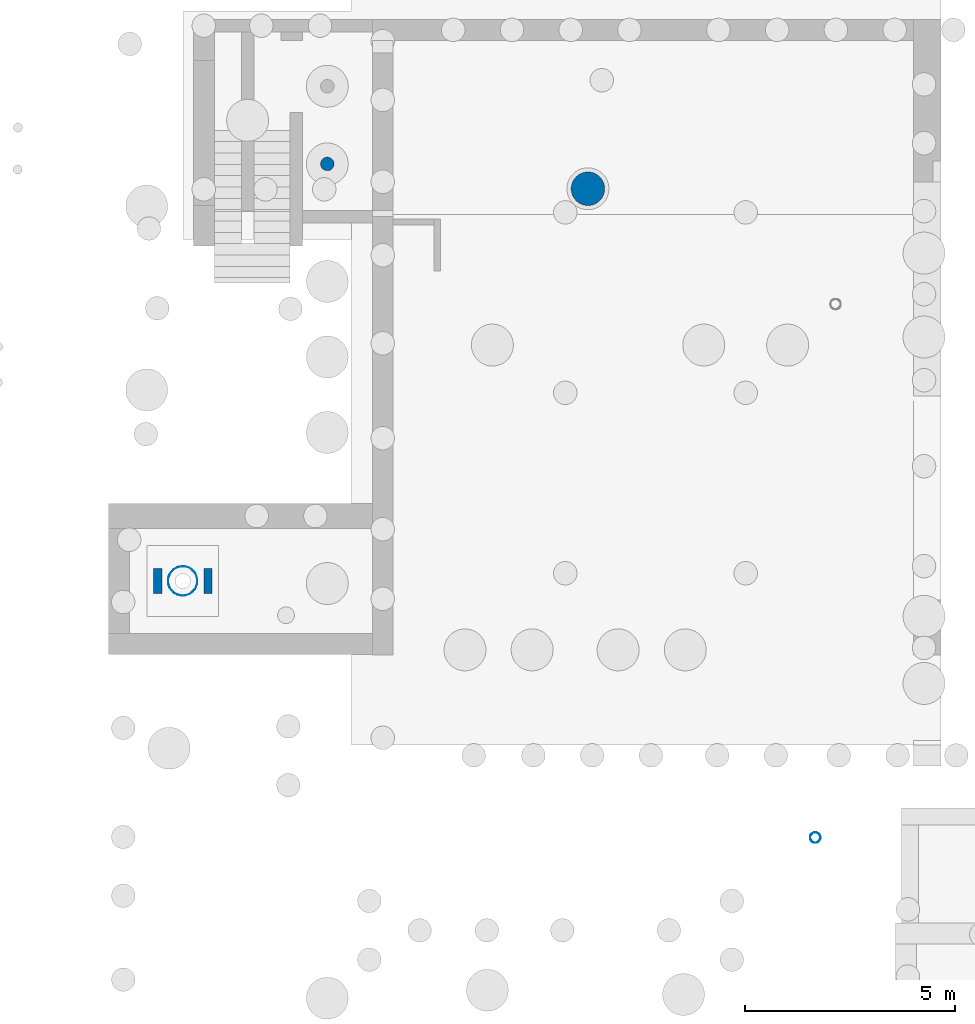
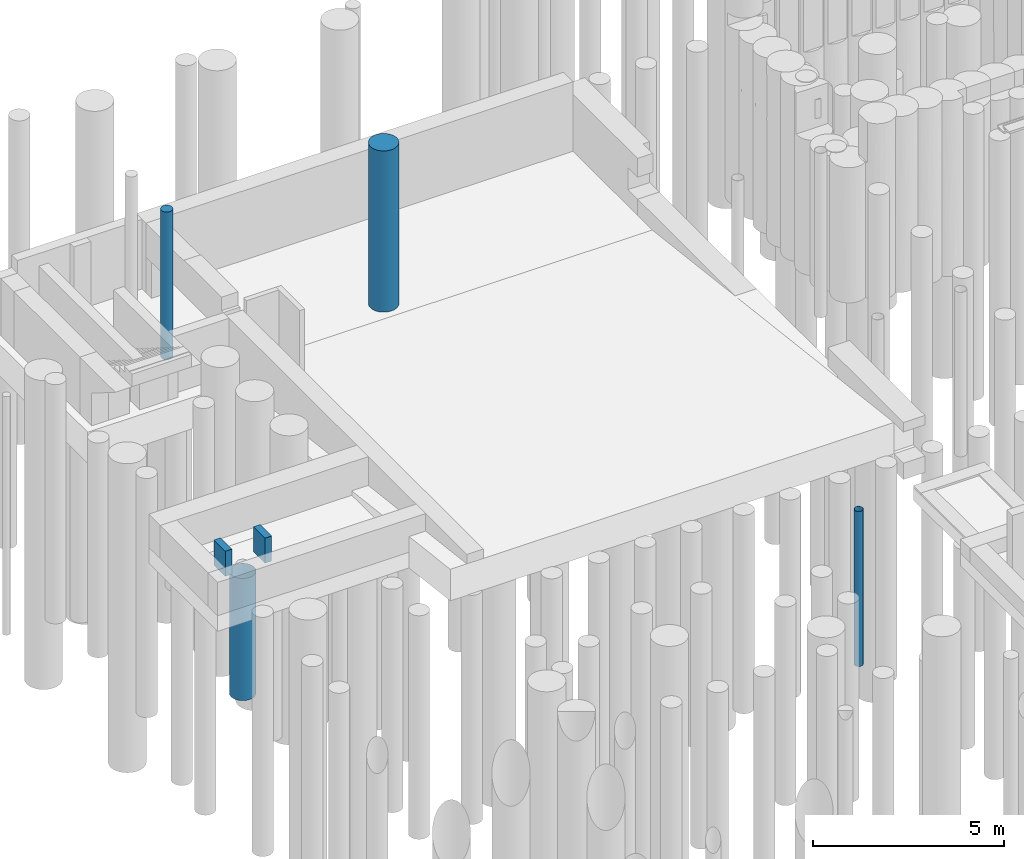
# One storey, part 7 of 104: 6 columns.
"""IFC2X3 building model written with IfcOpenShell, lengths in millimetres."""

import ifcopenshell
import ifcopenshell.guid

model = None  # the IFC model being written
_history = None  # IfcOwnerHistory: only IFC2X3 demands one
_inside = {}  # id of a spatial element -> (the spatial element, [elements in it])
_under = {}  # id of a project, library or spatial element -> (it, [spatial elements below it])
_declared = {}  # id of a project -> (the project, [libraries it declares])
_typed = {}  # id of a type object -> (the type object, [elements of that type])
_made_of = {}  # id of a material, layer set ... -> (it, [elements and type objects made of it])


def new_model(schema):
    """Start an empty IFC model of exactly this schema.

    Asked for "IFC4X3", IfcOpenShell would pick the latest addendum, in which some entities
    have other attributes; the version numbers below select the first issue.
    IFC2X3 requires an IfcOwnerHistory on every rooted entity: one is made here for all.
    """
    global model, _history
    if schema == "IFC4X3":
        model = ifcopenshell.file(schema_version=(4, 3, 0, 0))
    else:
        model = ifcopenshell.file(schema=schema)
    _inside.clear()
    _under.clear()
    _declared.clear()
    _typed.clear()
    _made_of.clear()
    _history = None
    if model.schema == "IFC2X3":
        org = make("IfcOrganization", Name="unknown")
        user = make(
            "IfcPersonAndOrganization",
            ThePerson=make("IfcPerson", FamilyName="unknown"),
            TheOrganization=org,
        )
        app = make(
            "IfcApplication",
            ApplicationDeveloper=org,
            Version="unknown",
            ApplicationFullName="unknown",
            ApplicationIdentifier="unknown",
        )
        _history = make(
            "IfcOwnerHistory",
            OwningUser=user,
            OwningApplication=app,
            ChangeAction="ADDED",
            CreationDate=0,
        )
    return model


def make(cls, **values):
    """One entity of the class cls with the attributes given. An attribute that is None is left unset."""
    return model.create_entity(
        cls, **{name: value for name, value in values.items() if value is not None}
    )


def entity(cls, *values):
    """Any entity or typed value of the class cls, its attributes in the order of the schema. None: left unset."""
    e = model.create_entity(cls)
    for i, value in enumerate(values):
        if value is not None:
            e[i] = value
    return e


def rooted(cls, **values):
    """An entity with a GlobalId (a new one), such as an element, a storey or a relation."""
    return make(cls, GlobalId=ifcopenshell.guid.new(), OwnerHistory=_history, **values)


def si_unit(unit_type, name, prefix=None):
    """IfcSIUnit, for example si_unit("LENGTHUNIT", "METRE", prefix="MILLI")."""
    return make("IfcSIUnit", UnitType=unit_type, Prefix=prefix, Name=name)


def converted_unit(unit_type, name, factor, base, dimensions=None, offset=None):
    """IfcConversionBasedUnit, such as the inch: factor (a typed value) times the base unit."""
    return make(
        "IfcConversionBasedUnit"
        if offset is None
        else "IfcConversionBasedUnitWithOffset",
        ConversionOffset=offset,
        Dimensions=None
        if dimensions is None
        else entity("IfcDimensionalExponents", *dimensions),
        UnitType=unit_type,
        Name=name,
        ConversionFactor=make(
            "IfcMeasureWithUnit", ValueComponent=factor, UnitComponent=base
        ),
    )


def derived_unit(unit_type, elements):
    """IfcDerivedUnit: a product of units, each with its exponent."""
    return make(
        "IfcDerivedUnit",
        Elements=[
            make("IfcDerivedUnitElement", Unit=unit, Exponent=power)
            for unit, power in elements
        ],
        UnitType=unit_type,
    )


def assignment(units):
    """IfcUnitAssignment: the units of a project."""
    return None if units is None else make("IfcUnitAssignment", Units=units)


def point(xyz):
    """IfcCartesianPoint."""
    return None if xyz is None else make("IfcCartesianPoint", Coordinates=xyz)


def direction(xyz):
    """IfcDirection."""
    return None if xyz is None else make("IfcDirection", DirectionRatios=xyz)


def frame(location, z_axis=None, x_axis=None):
    """IfcAxis2Placement3D, a coordinate frame: its origin and axes. An axis left out is left unset."""
    return make(
        "IfcAxis2Placement3D",
        Location=point(location),
        Axis=direction(z_axis),
        RefDirection=direction(x_axis),
    )


def frame_2d(location, x_axis=None):
    """IfcAxis2Placement2D, a coordinate frame in the plane: its origin and x axis."""
    return make(
        "IfcAxis2Placement2D", Location=point(location), RefDirection=direction(x_axis)
    )


def origin():
    """The frame at (0, 0, 0) with its axes left unset."""
    return frame((0.0, 0.0, 0.0))


def origin_2d_with_axis():
    """The frame at (0, 0) in the plane with the x axis (1, 0) written out."""
    return frame_2d((0.0, 0.0), x_axis=(1.0, 0.0))


def place(relative_to, where):
    """IfcLocalPlacement: puts the frame where relative to a parent placement (None: the world)."""
    return make(
        "IfcLocalPlacement", PlacementRelTo=relative_to, RelativePlacement=where
    )


def context(
    kind, dimensions, precision=None, world=None, true_north=None, identifier=None
):
    """IfcGeometricRepresentationContext, for example the 3D "Model" context."""
    return make(
        "IfcGeometricRepresentationContext",
        ContextIdentifier=identifier,
        ContextType=kind,
        CoordinateSpaceDimension=dimensions,
        Precision=precision,
        WorldCoordinateSystem=world,
        TrueNorth=true_north,
    )


def subcontext(parent, identifier, kind, view, scale=None):
    """IfcGeometricRepresentationSubContext, for example "Body" below "Model"."""
    return make(
        "IfcGeometricRepresentationSubContext",
        ContextIdentifier=identifier,
        ContextType=kind,
        ParentContext=parent,
        TargetScale=scale,
        TargetView=view,
    )


def project(units=None, contexts=None):
    """IfcProject with its units and contexts."""
    return rooted(
        "IfcProject",
        Name="project",
        RepresentationContexts=contexts,
        UnitsInContext=assignment(units),
    )


def spatial(cls, under=None, at=None, **own):
    """A site, building, storey or space (cls), placed at a placement, below another one or the project."""
    s = rooted(cls, ObjectPlacement=at, **own)
    if under is not None:
        _under.setdefault(under.id(), (under, []))[1].append(s)
    return s


def profile(cls, at=None, kind="AREA", **sizes):
    """A parametric profile (cls). Its sizes go by their IFC names, for example OverallWidth=200.0."""
    return make(cls, ProfileType=kind, Position=at, **sizes)


def rectangle(**sizes):
    """IfcRectangleProfileDef."""
    return profile("IfcRectangleProfileDef", **sizes)


def circle(**sizes):
    """IfcCircleProfileDef."""
    return profile("IfcCircleProfileDef", **sizes)


def hollow_circle(**sizes):
    """IfcCircleHollowProfileDef."""
    return profile("IfcCircleHollowProfileDef", **sizes)


def extrude(swept, where, along, depth):
    """IfcExtrudedAreaSolid: the profile swept, set in the frame where, extruded along a direction by depth."""
    return make(
        "IfcExtrudedAreaSolid",
        SweptArea=swept,
        Position=where,
        ExtrudedDirection=direction(along),
        Depth=depth,
    )


def shape(context_of_items, identifier, shape_type, items):
    """IfcShapeRepresentation: the items that make up one representation, for example the "Body"."""
    return make(
        "IfcShapeRepresentation",
        ContextOfItems=context_of_items,
        RepresentationIdentifier=identifier,
        RepresentationType=shape_type,
        Items=items,
    )


def source(mapping_origin, context_of_items, identifier, shape_type, items):
    """IfcRepresentationMap: a shape defined once, which mapped items show again and again."""
    return make(
        "IfcRepresentationMap",
        MappingOrigin=mapping_origin,
        MappedRepresentation=shape(context_of_items, identifier, shape_type, items),
    )


def transform(
    local_origin,
    x_axis=None,
    y_axis=None,
    z_axis=None,
    scale=None,
    scale2=None,
    scale3=None,
    uniform=True,
):
    """IfcCartesianTransformationOperator3D, or its non-uniform kind. x_axis, y_axis, z_axis: its Axis1, 2, 3."""
    if uniform:
        return make(
            "IfcCartesianTransformationOperator3D",
            Axis1=direction(x_axis),
            Axis2=direction(y_axis),
            LocalOrigin=point(local_origin),
            Scale=scale,
            Axis3=direction(z_axis),
        )
    return make(
        "IfcCartesianTransformationOperator3DnonUniform",
        Axis1=direction(x_axis),
        Axis2=direction(y_axis),
        LocalOrigin=point(local_origin),
        Scale=scale,
        Axis3=direction(z_axis),
        Scale2=scale2,
        Scale3=scale3,
    )


def mapped(mapping_source, mapping_target):
    """IfcMappedItem: shows the shape of a source again, moved by a transform."""
    return make(
        "IfcMappedItem", MappingSource=mapping_source, MappingTarget=mapping_target
    )


def material(Name=None, Category=None):
    """IfcMaterial."""
    return make("IfcMaterial", Name=Name, Category=Category)


def material_list(materials):
    """IfcMaterialList."""
    return make("IfcMaterialList", Materials=materials)


def made_of(thing, what):
    """Note that an element or type object is made of a material, layer set ...; save() writes the relation."""
    if what is not None:
        _made_of.setdefault(what.id(), (what, []))[1].append(thing)
    return thing


def type_object(cls, material=None, **own):
    """A type object (cls), such as IfcWallType, which elements share."""
    return made_of(rooted(cls, **own), material)


def type_shapes(of_type, sources):
    """Give a type object the sources (RepresentationMaps) that its elements show as mapped items."""
    of_type.RepresentationMaps = sources


def element(
    cls,
    number,
    at=None,
    inside=None,
    cuts=None,
    type_object=None,
    material=None,
    context=None,
    identifier="Body",
    shape_type=None,
    held_by="IfcProductDefinitionShape",
    body=None,
    shapes=None,
    **own,
):
    """One element of the class cls, such as IfcWall. Its Tag is "e" and its number.

    at: its placement. inside: the storey or other place that contains it. cuts: it is an
    opening in that element (IfcRelVoidsElement). A single representation is given by context,
    identifier, shape_type and body (its items); several are given by shapes. held_by: the class
    of the entity that holds the representations. save() writes the other relations.
    """
    e = rooted(cls, Tag="e%d" % number, ObjectPlacement=at, **own)
    if body is not None:
        shapes = [shape(context, identifier, shape_type, body)]
    if shapes is not None:
        e.Representation = make(held_by, Representations=shapes)
    if inside is not None:
        _inside.setdefault(inside.id(), (inside, []))[1].append(e)
    if cuts is not None:
        rooted(
            "IfcRelVoidsElement", RelatingBuildingElement=cuts, RelatedOpeningElement=e
        )
    if type_object is not None:
        _typed.setdefault(type_object.id(), (type_object, []))[1].append(e)
    return made_of(e, material)


def aggregate(whole, parts):
    """IfcRelAggregates: a whole, such as a stair, and the parts it consists of."""
    return rooted("IfcRelAggregates", RelatingObject=whole, RelatedObjects=parts)


def save(model, path):
    """Write the relations noted so far, then the file.

    IfcRelAggregates (storeys below a building ...), IfcRelContainedInSpatialStructure (elements
    in a storey), IfcRelDefinesByType, IfcRelAssociatesMaterial and IfcRelDeclares: one each for
    every whole, place, type object, material and project.
    """
    for whole, parts in _under.values():
        aggregate(whole, parts)
    for where, things in _inside.values():
        rooted(
            "IfcRelContainedInSpatialStructure",
            RelatedElements=things,
            RelatingStructure=where,
        )
    for kind, things in _typed.values():
        rooted("IfcRelDefinesByType", RelatedObjects=things, RelatingType=kind)
    for what, things in _made_of.values():
        rooted("IfcRelAssociatesMaterial", RelatedObjects=things, RelatingMaterial=what)
    for by, libraries in _declared.values():
        rooted("IfcRelDeclares", RelatingContext=by, RelatedDefinitions=libraries)
    model.write(path)


model = new_model("IFC2X3")

# Units and contexts
model_context = context("Model", 3, precision=0.01, world=origin(), true_north=direction((6.12303176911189e-17, 1.0)))
body_context = subcontext(model_context, "Body", "Model", "MODEL_VIEW")
ifc_project = project(units=[si_unit("LENGTHUNIT", "METRE", prefix="MILLI"), si_unit("AREAUNIT", "SQUARE_METRE", prefix="MILLI"), si_unit("VOLUMEUNIT", "CUBIC_METRE"), converted_unit("PLANEANGLEUNIT", "DEGREE", entity("IfcRatioMeasure", 0.0174532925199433), si_unit("PLANEANGLEUNIT", "RADIAN"), dimensions=[0, 0, 0, 0, 0, 0, 0]), si_unit("MASSUNIT", "GRAM", prefix="KILO"), derived_unit("MASSDENSITYUNIT", [(si_unit("MASSUNIT", "GRAM", prefix="KILO"), 1), (si_unit("LENGTHUNIT", "METRE"), -3)]), derived_unit("MOMENTOFINERTIAUNIT", [(si_unit("LENGTHUNIT", "METRE"), 4)]), si_unit("TIMEUNIT", "SECOND"), si_unit("FREQUENCYUNIT", "HERTZ"), si_unit("THERMODYNAMICTEMPERATUREUNIT", "DEGREE_CELSIUS"), derived_unit("THERMALTRANSMITTANCEUNIT", [(si_unit("MASSUNIT", "GRAM", prefix="KILO"), 1), (si_unit("THERMODYNAMICTEMPERATUREUNIT", "KELVIN"), -1), (si_unit("TIMEUNIT", "SECOND"), -3)]), derived_unit("VOLUMETRICFLOWRATEUNIT", [(si_unit("LENGTHUNIT", "METRE"), 3), (si_unit("TIMEUNIT", "SECOND"), -1)]), si_unit("ELECTRICCURRENTUNIT", "AMPERE"), si_unit("ELECTRICVOLTAGEUNIT", "VOLT"), si_unit("POWERUNIT", "WATT"), si_unit("FORCEUNIT", "NEWTON", prefix="KILO"), si_unit("ILLUMINANCEUNIT", "LUX"), si_unit("LUMINOUSFLUXUNIT", "LUMEN"), si_unit("LUMINOUSINTENSITYUNIT", "CANDELA"), derived_unit("USERDEFINED", [(si_unit("MASSUNIT", "GRAM", prefix="KILO"), -1), (si_unit("LENGTHUNIT", "METRE"), -2), (si_unit("TIMEUNIT", "SECOND"), 3), (si_unit("LUMINOUSFLUXUNIT", "LUMEN"), 1)]), derived_unit("LINEARVELOCITYUNIT", [(si_unit("LENGTHUNIT", "METRE"), 1), (si_unit("TIMEUNIT", "SECOND"), -1)]), si_unit("PRESSUREUNIT", "PASCAL"), derived_unit("USERDEFINED", [(si_unit("LENGTHUNIT", "METRE"), -2), (si_unit("MASSUNIT", "GRAM", prefix="KILO"), 1), (si_unit("TIMEUNIT", "SECOND"), -2)]), derived_unit("LINEARFORCEUNIT", [(si_unit("MASSUNIT", "GRAM", prefix="KILO"), 1), (si_unit("LENGTHUNIT", "METRE"), 1), (si_unit("TIMEUNIT", "SECOND"), -2), (si_unit("LENGTHUNIT", "METRE"), -1)]), derived_unit("PLANARFORCEUNIT", [(si_unit("MASSUNIT", "GRAM", prefix="KILO"), 1), (si_unit("LENGTHUNIT", "METRE"), 1), (si_unit("TIMEUNIT", "SECOND"), -2), (si_unit("LENGTHUNIT", "METRE"), -2)])], contexts=[model_context])

# Site, building, storey
site_placement = place(None, origin())
site = spatial("IfcSite", under=ifc_project, at=site_placement, Name="Theater aan de Parade", CompositionType="ELEMENT")
building_placement = place(site_placement, origin())
building = spatial("IfcBuilding", under=site, at=building_placement, Name="Theater aan de Parade", CompositionType="ELEMENT")
storey_placement = place(building_placement, frame((0.0, 0.0, -5520.0)))
storey = spatial("IfcBuildingStorey", under=building, at=storey_placement, Name="-2 kelder", CompositionType="ELEMENT", Elevation=-5520.0)

# Columns
ifc_material_1 = material(Name="00_PBT_MAT_staal")
column_type_1 = type_object("IfcColumnType", Name="28_PBT_SC_staal_buis:B700.0x0.4_bestaand", PredefinedType="COLUMN", material=ifc_material_1)
shared_shape_1 = source(origin(), body_context, "Body", "SweptSolid", [
    extrude(hollow_circle(Radius=350.0, WallThickness=3.99999999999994, at=frame_2d((-3.20612224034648e-14, -7.2089563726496e-13), x_axis=(1.0, 0.0))), frame((0.0, 0.0, -8950.0), z_axis=(0.0, 0.0, 1.0), x_axis=(-1.0, 0.0, 0.0)), (0.0, 0.0, 1.0), 3900.0),
])
type_shapes(column_type_1, [shared_shape_1])
column_1_placement = place(storey_placement, frame((11760.0, 30315.0, 5520.0)))
element("IfcColumn", 1, at=column_1_placement, inside=storey, type_object=column_type_1, material=ifc_material_1, Name="28_PBT_SC_staal_buis:B700.0x0.4_bestaand", ObjectType="28_PBT_SC_staal_buis:B700.0x0.4_bestaand", context=body_context, shape_type="MappedRepresentation", body=[
    mapped(shared_shape_1, transform((0.0, 0.0, 0.0), scale=1.0)),
])
ifc_material_2 = material(Name="00_PBT_MAT_beton t.p.g.")
column_type_2 = type_object("IfcColumnType", Name="28_PBT_SC_beton_rechthoekig:600x200_bestaand", PredefinedType="COLUMN", material=ifc_material_2)
shared_shape_2 = source(origin(), body_context, "Body", "SweptSolid", [
    extrude(rectangle(XDim=200.0, YDim=600.000000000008, at=origin_2d_with_axis()), frame((0.0, 0.0, -4800.0), z_axis=(0.0, 0.0, 1.0), x_axis=(0.0, -1.0, 0.0)), (0.0, 0.0, 1.0), 800.0),
])
type_shapes(column_type_2, [shared_shape_2])
column_2_placement = place(storey_placement, frame((11160.0, 30315.0, 5520.0), z_axis=(0.0, 0.0, 1.0), x_axis=(0.0, 1.0, 0.0)))
element("IfcColumn", 2, at=column_2_placement, inside=storey, type_object=column_type_2, material=ifc_material_2, Name="28_PBT_SC_beton_rechthoekig:600x200_bestaand", ObjectType="28_PBT_SC_beton_rechthoekig:600x200_bestaand", context=body_context, shape_type="MappedRepresentation", body=[
    mapped(shared_shape_2, transform((0.0, 0.0, 0.0), scale=1.0)),
])
column_type_3 = type_object("IfcColumnType", Name="28_PBT_SC_beton_rechthoekig:600x200_bestaand", PredefinedType="COLUMN", material=ifc_material_2)
shared_shape_3 = source(origin(), body_context, "Body", "SweptSolid", [
    extrude(rectangle(XDim=200.0, YDim=600.0, at=frame_2d((0.0, -3.69482222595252e-13), x_axis=(1.0, 0.0))), frame((0.0, 0.0, -4800.0), z_axis=(0.0, 0.0, 1.0), x_axis=(0.0, -1.0, 0.0)), (0.0, 0.0, 1.0), 800.0),
])
type_shapes(column_type_3, [shared_shape_3])
column_3_placement = place(storey_placement, frame((12360.0, 30315.0, 5520.0), z_axis=(0.0, 0.0, 1.0), x_axis=(0.0, 1.0, 0.0)))
element("IfcColumn", 3, at=column_3_placement, inside=storey, type_object=column_type_3, material=ifc_material_2, Name="28_PBT_SC_beton_rechthoekig:600x200_bestaand", ObjectType="28_PBT_SC_beton_rechthoekig:600x200_bestaand", context=body_context, shape_type="MappedRepresentation", body=[
    mapped(shared_shape_3, transform((0.0, 0.0, 0.0), scale=1.0)),
])
column_type_4 = type_object("IfcColumnType", Name="28_PBT_SC_staal_buis:B250x dikte onbekend_bestaand", PredefinedType="COLUMN", material=ifc_material_1)
shared_shape_4 = source(origin(), body_context, "Body", "SweptSolid", [
    extrude(hollow_circle(Radius=125.0, WallThickness=4.99999999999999, at=frame_2d((1.77837538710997e-15, -1.74211308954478e-13), x_axis=(1.0, 0.0))), frame((0.0, 0.0, -9590.0), z_axis=(0.0, 0.0, 1.0), x_axis=(-1.0, 0.0, 0.0)), (0.0, 0.0, 1.0), 4950.0),
])
type_shapes(column_type_4, [shared_shape_4])
column_4_placement = place(storey_placement, frame((26835.0, 24200.0, 5520.0)))
element("IfcColumn", 4, at=column_4_placement, inside=storey, type_object=column_type_4, material=ifc_material_1, Name="28_PBT_SC_staal_buis:B250x dikte onbekend_bestaand", ObjectType="28_PBT_SC_staal_buis:B250x dikte onbekend_bestaand", context=body_context, shape_type="MappedRepresentation", body=[
    mapped(shared_shape_4, transform((0.0, 0.0, 0.0), scale=1.0)),
])
ifc_material_3 = material(Name="00_PBT_MAT_staal_S355")
ifc_material_4 = material(Name="00_PBT_MAT_beton t.p.g._C40/50")
ifc_material_list_1 = material_list([ifc_material_3, ifc_material_4])
ifc_material_list_2 = material_list([ifc_material_3, ifc_material_4])
column_type_5 = type_object("IfcColumnType", Name="28_PBT_SC_staal_buis:S355_B323.9x10_GB_C40/50", PredefinedType="COLUMN", material=ifc_material_list_2)
shared_shape_5 = source(origin(), body_context, "Body", "SweptSolid", [
    extrude(hollow_circle(Radius=161.95, WallThickness=9.99999999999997, at=frame_2d((1.77837538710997e-15, -2.97621380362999e-13), x_axis=(1.0, 0.0))), frame((0.0, 0.0, -5425.0), z_axis=(0.0, 0.0, 1.0), x_axis=(-1.0, 0.0, 0.0)), (0.0, 0.0, 1.0), 4710.00000000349),
    extrude(circle(Radius=151.95, at=frame_2d((-6.17986865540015e-15, 1.29141200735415e-12), x_axis=(1.0, 0.0))), frame((0.0, 0.0, -5425.0)), (0.0, 0.0, 1.0), 4710.00000000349),
])
type_shapes(column_type_5, [shared_shape_5])
column_5_placement = place(storey_placement, frame((15203.8570025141, 40254.9748637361, 5520.0)))
element("IfcColumn", 5, at=column_5_placement, inside=storey, type_object=column_type_5, material=ifc_material_list_1, Name="28_PBT_SC_staal_buis:S355_B323.9x10_GB_C40/50", ObjectType="28_PBT_SC_staal_buis:S355_B323.9x10_GB_C40/50", context=body_context, shape_type="MappedRepresentation", body=[
    mapped(shared_shape_5, transform((0.0, 0.0, 0.0), scale=1.0)),
])
ifc_material_5 = material(Name="00_PBT_MAT_beton t.p.g._C30/37")
column_type_6 = type_object("IfcColumnType", Name="28_PBT_SC_beton_rond:C30/37_Ø800", PredefinedType="COLUMN", material=ifc_material_5)
shared_shape_6 = source(origin(), body_context, "Body", "SweptSolid", [
    extrude(circle(Radius=400.0, at=origin_2d_with_axis()), frame((21415.0, 39663.308327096, -5560.0), z_axis=(0.0, 0.0, 1.0), x_axis=(-1.0, 0.0, 0.0)), (0.0, 0.0, 1.0), 5150.00000000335),
])
type_shapes(column_type_6, [shared_shape_6])
column_6_placement = place(storey_placement, frame((0.0, 0.0, 5520.0)))
element("IfcColumn", 6, at=column_6_placement, inside=storey, type_object=column_type_6, material=ifc_material_5, Name="28_PBT_SC_beton_rond:C30/37_Ø800", ObjectType="28_PBT_SC_beton_rond:C30/37_Ø800", context=body_context, shape_type="MappedRepresentation", body=[
    mapped(shared_shape_6, transform((0.0, 0.0, 0.0), scale=1.0)),
])

save(model, "model.ifc")
